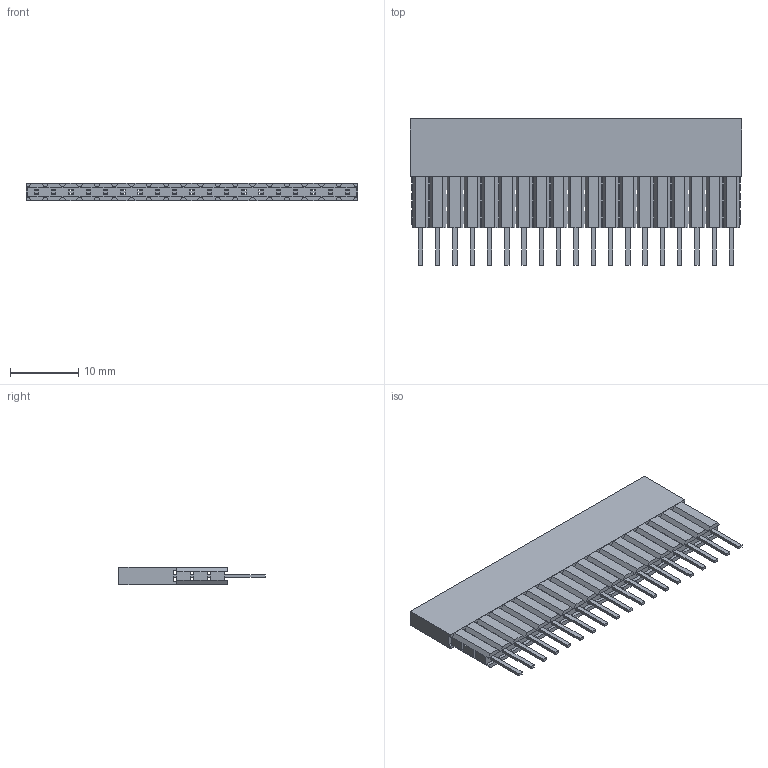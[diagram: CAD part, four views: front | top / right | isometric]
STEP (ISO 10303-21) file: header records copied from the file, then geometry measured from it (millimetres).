
FILE_DESCRIPTION(/* description */ (''),/* implementation_level */ '2;1');
FILE_NAME(/* name */ 'PM254-1-19-Z-C16.0-XX-3LP(L21.5)(2.54 单排 排母 直针 加3层塑胶-HCTL).stp',/* time_stamp */ '2026-10-24T15:57:21+08:00',/* author */ (''),/* organization */ (''),/* preprocessor_version */ 'ST-DEVELOPER v16',/* originating_system */ 'SIEMENS PLM Software NX 10.0',/* authorisation */ '');
FILE_SCHEMA (('AUTOMOTIVE_DESIGN { 1 0 10303 214 3 1 1 1 }'));
Length unit declared in the file: millimetre
Products named in the file (1): PM254-1-N-Z-C16.0-XX-3LP(L21.5)(2.54 单排 排母 
直针 加3层塑胶-HCTL)
Bounding box: 48.66 x 21.5 x 2.5 mm (x, y, z)
Volume: 1672.5 mm3; surface area: 3865.7 mm2
Topology: 2 solids, 2 shells, 902 faces, 2720 edges, 1636 vertices
Faces by surface type: plane 902
Entity records: 29873 total; most frequent: ORIENTED_EDGE 5440, CARTESIAN_POINT 5259, DIRECTION 4526, EDGE_CURVE 2720, LINE 2720, VECTOR 2720, VERTEX_POINT 1636, EDGE_LOOP 1054
